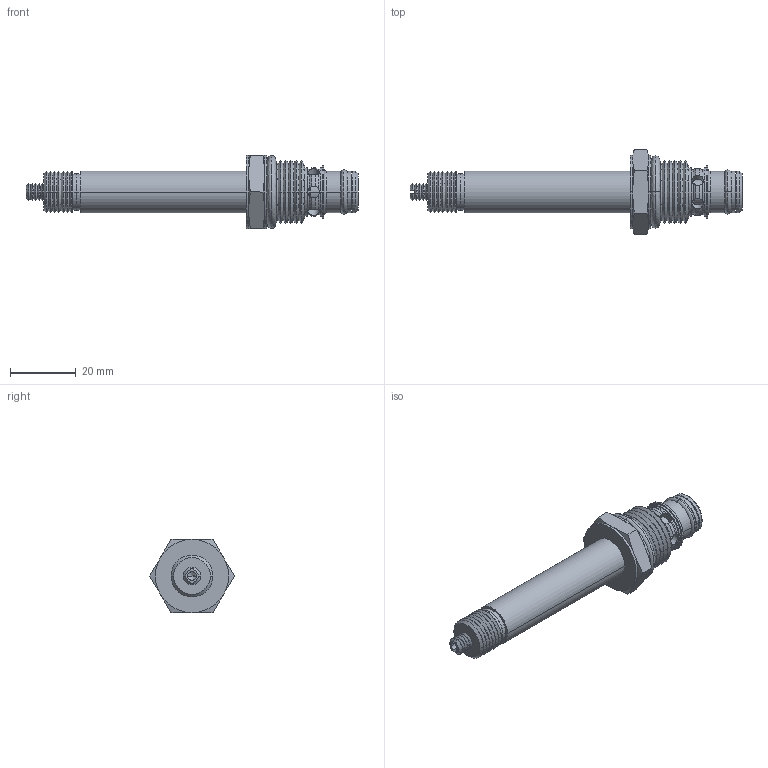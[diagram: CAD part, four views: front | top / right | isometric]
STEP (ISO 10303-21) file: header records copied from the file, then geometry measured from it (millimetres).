
FILE_DESCRIPTION((''),'2;1');
FILE_NAME('U:\Solid model CD\Solid model full\Solenoid\STEP\PBS2C0M-3D Full.stp','2008-06-23T11:31:29',('Dan'),(''),'Autodesk Inventor 9','Autodesk Inventor 9','');
FILE_SCHEMA(('AUTOMOTIVE_DESIGN { 1 0 10303 214 1 1 1 1 }'));
Length unit declared in the file: inch
Products named in the file (5): PBS2C0M-3D Full; PBS2C0M-3D Full1; PBS2C0M-3D Full2; PBS2C0M-3D Full3; PBS2C0M-3D Full4
Assembly tree (4 placements, depth 2):
  PBS2C0M-3D Full
    PBS2C0M-3D Full1
    PBS2C0M-3D Full2
    PBS2C0M-3D Full3
    PBS2C0M-3D Full4
Bounding box: 100.83 x 25.66 x 22.23 mm (x, y, z)
Volume: 15019.8 mm3; surface area: 7357 mm2
Topology: 4 solids, 4 shells, 239 faces, 578 edges, 353 vertices
Faces by surface type: bspline 148, cone 58, cylinder 16, plane 15, torus 2
Entity records: 9772 total; most frequent: CARTESIAN_POINT 4621, ORIENTED_EDGE 1152, DIRECTION 962, EDGE_CURVE 576, AXIS2_PLACEMENT_3D 400, VERTEX_POINT 353, CIRCLE 300, EDGE_LOOP 265
